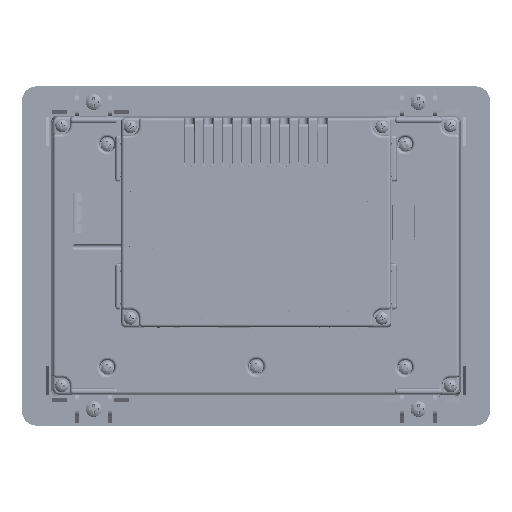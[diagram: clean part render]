
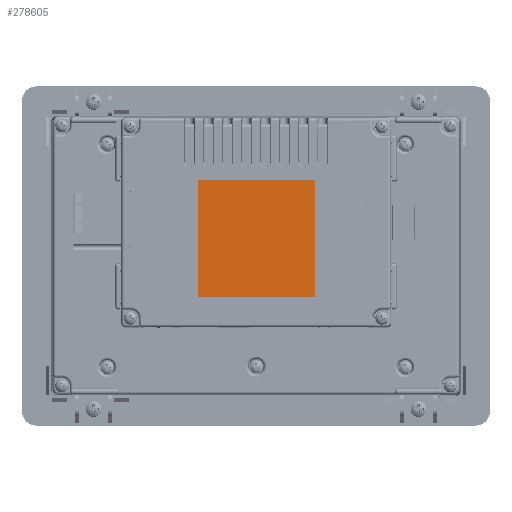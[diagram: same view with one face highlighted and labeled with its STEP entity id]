
A CAD part, top view. The second image highlights one B-rep face of the part: STEP entity #278605.
In plain terms, the highlighted planar face has unit normal (0, 0, 1) as drawn and (0, -1, 0) by its records, which use the part's own axes.
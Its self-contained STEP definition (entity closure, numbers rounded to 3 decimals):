
#11772=PLANE('',#299827);
#49677=LINE('',#522602,#80050);
#49681=LINE('',#522611,#80054);
#49684=LINE('',#522617,#80057);
#49687=LINE('',#522623,#80060);
#80050=VECTOR('',#370292,1000.);
#80054=VECTOR('',#370298,1000.);
#80057=VECTOR('',#370303,1000.);
#80060=VECTOR('',#370308,1000.);
#160474=ORIENTED_EDGE('',*,*,#200674,.T.);
#160475=ORIENTED_EDGE('',*,*,#200678,.T.);
#160476=ORIENTED_EDGE('',*,*,#200681,.T.);
#160477=ORIENTED_EDGE('',*,*,#200684,.T.);
#200674=EDGE_CURVE('',#227118,#227119,#49677,.T.);
#200678=EDGE_CURVE('',#227119,#227122,#49681,.T.);
#200681=EDGE_CURVE('',#227122,#227124,#49684,.T.);
#200684=EDGE_CURVE('',#227124,#227118,#49687,.T.);
#227118=VERTEX_POINT('',#522603);
#227119=VERTEX_POINT('',#522604);
#227122=VERTEX_POINT('',#522612);
#227124=VERTEX_POINT('',#522618);
#248005=EDGE_LOOP('',(#160474,#160475,#160476,#160477));
#263579=FACE_BOUND('',#248005,.T.);
#278605=ADVANCED_FACE('',(#263579),#11772,.T.);
#299827=AXIS2_PLACEMENT_3D('',#522626,#370312,#370313);
#370292=DIRECTION('',(0.,0.,-1.));
#370298=DIRECTION('',(1.,0.,0.));
#370303=DIRECTION('',(0.,0.,1.));
#370308=DIRECTION('',(-1.,0.,0.));
#370312=DIRECTION('',(0.,-1.,0.));
#370313=DIRECTION('',(0.,0.,-1.));
#522602=CARTESIAN_POINT('',(-25.4,0.,25.4));
#522603=CARTESIAN_POINT('',(-25.4,0.,25.4));
#522604=CARTESIAN_POINT('',(-25.4,0.,-25.4));
#522611=CARTESIAN_POINT('',(-25.4,0.,-25.4));
#522612=CARTESIAN_POINT('',(25.4,0.,-25.4));
#522617=CARTESIAN_POINT('',(25.4,0.,-25.4));
#522618=CARTESIAN_POINT('',(25.4,0.,25.4));
#522623=CARTESIAN_POINT('',(25.4,0.,25.4));
#522626=CARTESIAN_POINT('',(0.,0.,0.));
